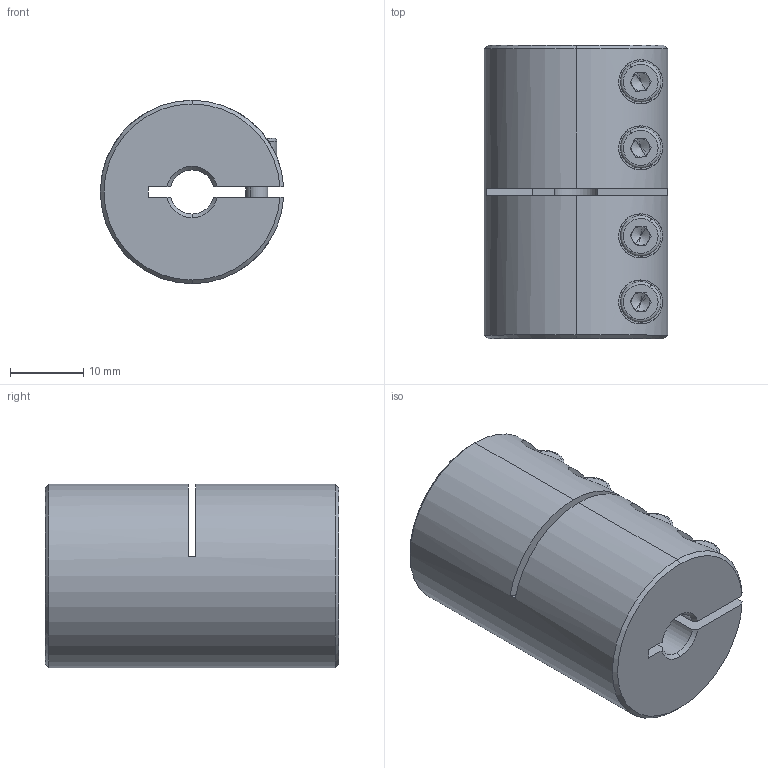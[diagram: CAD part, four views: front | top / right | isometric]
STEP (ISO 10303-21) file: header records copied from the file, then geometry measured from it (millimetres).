
FILE_DESCRIPTION (( 'STEP AP214' ), '1' );
FILE_NAME ('LL-B-D25L40-6-6½¨Ä£.STEP', '2022-07-21T05:06:48', ( '' ), ( '' ), 'SwSTEP 2.0', 'SolidWorks 2022', '' );
FILE_SCHEMA (( 'AUTOMOTIVE_DESIGN' ));
Length unit declared in the file: millimetre
Products named in the file (1): LL-B-D25L40-6-6膘耀
Bounding box: 24.98 x 40 x 25 mm (x, y, z)
Volume: 17210.2 mm3; surface area: 7076.2 mm2
Topology: 1 solids, 1 shells, 173 faces, 440 edges, 277 vertices
Faces by surface type: plane 83, cylinder 62, cone 20, torus 8
Entity records: 5667 total; most frequent: CARTESIAN_POINT 1407, DIRECTION 915, ORIENTED_EDGE 864, EDGE_CURVE 432, AXIS2_PLACEMENT_3D 353, VERTEX_POINT 277, LINE 209, VECTOR 209
